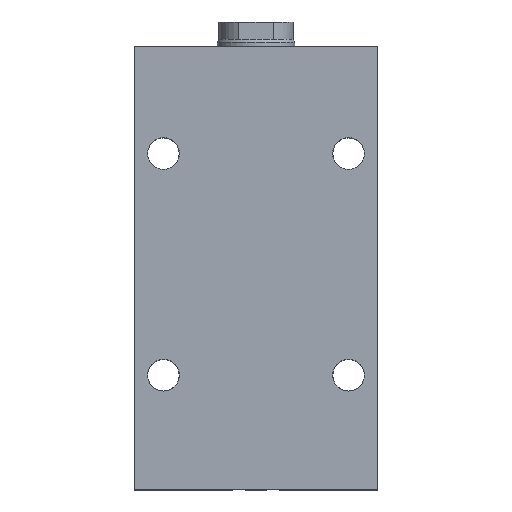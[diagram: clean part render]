
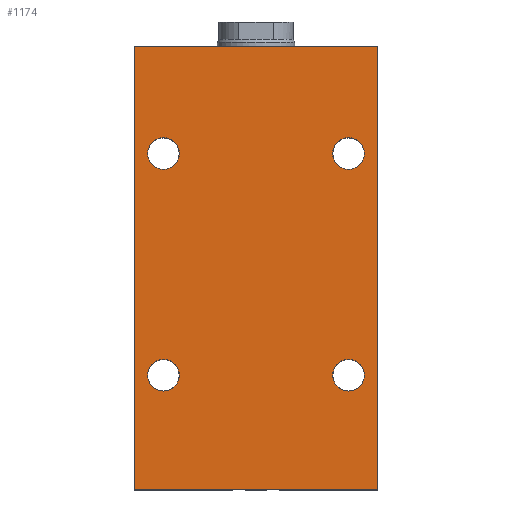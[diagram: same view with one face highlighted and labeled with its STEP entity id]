
A CAD part, top view. The second image highlights one B-rep face of the part: STEP entity #1174.
In plain terms, the highlighted planar face has unit normal (0, 0, 1).
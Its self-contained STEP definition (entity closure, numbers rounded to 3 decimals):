
#7 = AXIS2_PLACEMENT_3D ( 'NONE', #872, #867, #861 ) ;
#14 = EDGE_LOOP ( 'NONE', ( #3750, #1718 ) ) ;
#148 = DIRECTION ( 'NONE',  ( 1., 0., 0. ) ) ;
#156 = VERTEX_POINT ( 'NONE', #1975 ) ;
#168 = CARTESIAN_POINT ( 'NONE',  ( -38., 47., 37.5 ) ) ;
#200 = CARTESIAN_POINT ( 'NONE',  ( -50., 0., 37.5 ) ) ;
#236 = VECTOR ( 'NONE', #3620, 1000. ) ;
#345 = VERTEX_POINT ( 'NONE', #3518 ) ;
#350 = FACE_BOUND ( 'NONE', #1664, .T. ) ;
#376 = VECTOR ( 'NONE', #2246, 1000. ) ;
#465 = CARTESIAN_POINT ( 'NONE',  ( 44.5, 47., 37.5 ) ) ;
#469 = CARTESIAN_POINT ( 'NONE',  ( -38., 138., 37.5 ) ) ;
#476 = FACE_BOUND ( 'NONE', #2636, .T. ) ;
#478 = DIRECTION ( 'NONE',  ( 0., 0., 1. ) ) ;
#496 = AXIS2_PLACEMENT_3D ( 'NONE', #1547, #4199, #1934 ) ;
#566 = CIRCLE ( 'NONE', #3006, 6.5 ) ;
#648 = CARTESIAN_POINT ( 'NONE',  ( 31.5, 138., 37.5 ) ) ;
#692 = VERTEX_POINT ( 'NONE', #648 ) ;
#836 = VECTOR ( 'NONE', #1797, 1000. ) ;
#845 = CIRCLE ( 'NONE', #7, 6.5 ) ;
#851 = CARTESIAN_POINT ( 'NONE',  ( -31.5, 138., 37.5 ) ) ;
#857 = DIRECTION ( 'NONE',  ( 1., 0., 0. ) ) ;
#861 = DIRECTION ( 'NONE',  ( 1., 0., 0. ) ) ;
#867 = DIRECTION ( 'NONE',  ( 0., 0., 1. ) ) ;
#872 = CARTESIAN_POINT ( 'NONE',  ( 38., 138., 37.5 ) ) ;
#895 = AXIS2_PLACEMENT_3D ( 'NONE', #3296, #3312, #3328 ) ;
#950 = DIRECTION ( 'NONE',  ( 1., 0., 0. ) ) ;
#955 = DIRECTION ( 'NONE',  ( 0., 0., 1. ) ) ;
#980 = CARTESIAN_POINT ( 'NONE',  ( 38., 138., 37.5 ) ) ;
#1048 = CARTESIAN_POINT ( 'NONE',  ( -44.5, 138., 37.5 ) ) ;
#1092 = CARTESIAN_POINT ( 'NONE',  ( -50., 182., 37.5 ) ) ;
#1116 = EDGE_CURVE ( 'NONE', #1878, #2320, #4541, .T. ) ;
#1174 = ADVANCED_FACE ( 'NONE', ( #476, #3574, #1401, #350, #4320 ), #3209, .F. ) ;
#1197 = EDGE_CURVE ( 'NONE', #2320, #345, #1276, .T. ) ;
#1276 = LINE ( 'NONE', #200, #236 ) ;
#1369 = CARTESIAN_POINT ( 'NONE',  ( 38., 47., 37.5 ) ) ;
#1382 = AXIS2_PLACEMENT_3D ( 'NONE', #469, #3194, #857 ) ;
#1401 = FACE_BOUND ( 'NONE', #14, .T. ) ;
#1470 = ORIENTED_EDGE ( 'NONE', *, *, #1197, .T. ) ;
#1526 = VERTEX_POINT ( 'NONE', #4546 ) ;
#1547 = CARTESIAN_POINT ( 'NONE',  ( -38., 47., 37.5 ) ) ;
#1594 = ORIENTED_EDGE ( 'NONE', *, *, #2951, .F. ) ;
#1628 = CARTESIAN_POINT ( 'NONE',  ( -50., 0., 37.5 ) ) ;
#1664 = EDGE_LOOP ( 'NONE', ( #3639, #1594 ) ) ;
#1688 = AXIS2_PLACEMENT_3D ( 'NONE', #980, #955, #950 ) ;
#1718 = ORIENTED_EDGE ( 'NONE', *, *, #4478, .F. ) ;
#1754 = CARTESIAN_POINT ( 'NONE',  ( -50., 82., 37.5 ) ) ;
#1757 = CARTESIAN_POINT ( 'NONE',  ( -31.5, 47., 37.5 ) ) ;
#1762 = DIRECTION ( 'NONE',  ( 1., 0., 0. ) ) ;
#1797 = DIRECTION ( 'NONE',  ( 0., -1., 0. ) ) ;
#1805 = LINE ( 'NONE', #3843, #4700 ) ;
#1878 = VERTEX_POINT ( 'NONE', #3840 ) ;
#1916 = CARTESIAN_POINT ( 'NONE',  ( 44.5, 138., 37.5 ) ) ;
#1934 = DIRECTION ( 'NONE',  ( 1., 0., 0. ) ) ;
#1975 = CARTESIAN_POINT ( 'NONE',  ( 31.5, 47., 37.5 ) ) ;
#2024 = VERTEX_POINT ( 'NONE', #1757 ) ;
#2040 = AXIS2_PLACEMENT_3D ( 'NONE', #168, #478, #148 ) ;
#2246 = DIRECTION ( 'NONE',  ( 1., 0., 0. ) ) ;
#2293 = DIRECTION ( 'NONE',  ( 0., -1., 0. ) ) ;
#2320 = VERTEX_POINT ( 'NONE', #1628 ) ;
#2424 = AXIS2_PLACEMENT_3D ( 'NONE', #3145, #3129, #3115 ) ;
#2436 = EDGE_LOOP ( 'NONE', ( #1470, #4381, #4267, #4140 ) ) ;
#2450 = EDGE_CURVE ( 'NONE', #1878, #1526, #4566, .T. ) ;
#2636 = EDGE_LOOP ( 'NONE', ( #3994, #2978 ) ) ;
#2734 = VERTEX_POINT ( 'NONE', #4389 ) ;
#2860 = ORIENTED_EDGE ( 'NONE', *, *, #2963, .F. ) ;
#2908 = VERTEX_POINT ( 'NONE', #851 ) ;
#2951 = EDGE_CURVE ( 'NONE', #2734, #2024, #4217, .T. ) ;
#2963 = EDGE_CURVE ( 'NONE', #4649, #2908, #4003, .T. ) ;
#2978 = ORIENTED_EDGE ( 'NONE', *, *, #3550, .F. ) ;
#3006 = AXIS2_PLACEMENT_3D ( 'NONE', #1369, #4051, #1762 ) ;
#3065 = CIRCLE ( 'NONE', #496, 6.5 ) ;
#3115 = DIRECTION ( 'NONE',  ( 1., 0., 0. ) ) ;
#3129 = DIRECTION ( 'NONE',  ( 0., 0., 1. ) ) ;
#3145 = CARTESIAN_POINT ( 'NONE',  ( 38., 47., 37.5 ) ) ;
#3194 = DIRECTION ( 'NONE',  ( 0., 0., 1. ) ) ;
#3209 = PLANE ( 'NONE',  #895 ) ;
#3296 = CARTESIAN_POINT ( 'NONE',  ( -50., 82., 37.5 ) ) ;
#3312 = DIRECTION ( 'NONE',  ( 0., 0., -1. ) ) ;
#3328 = DIRECTION ( 'NONE',  ( -1., 0., 0. ) ) ;
#3518 = CARTESIAN_POINT ( 'NONE',  ( 50., 0., 37.5 ) ) ;
#3548 = EDGE_CURVE ( 'NONE', #4724, #692, #3948, .T. ) ;
#3550 = EDGE_CURVE ( 'NONE', #692, #4724, #845, .T. ) ;
#3574 = FACE_BOUND ( 'NONE', #4627, .T. ) ;
#3620 = DIRECTION ( 'NONE',  ( 1., 0., 0. ) ) ;
#3639 = ORIENTED_EDGE ( 'NONE', *, *, #4150, .F. ) ;
#3644 = VERTEX_POINT ( 'NONE', #465 ) ;
#3750 = ORIENTED_EDGE ( 'NONE', *, *, #4011, .F. ) ;
#3840 = CARTESIAN_POINT ( 'NONE',  ( -50., 182., 37.5 ) ) ;
#3843 = CARTESIAN_POINT ( 'NONE',  ( 50., 82., 37.5 ) ) ;
#3878 = ORIENTED_EDGE ( 'NONE', *, *, #4922, .F. ) ;
#3948 = CIRCLE ( 'NONE', #1688, 6.5 ) ;
#3994 = ORIENTED_EDGE ( 'NONE', *, *, #3548, .F. ) ;
#4003 = CIRCLE ( 'NONE', #4319, 6.5 ) ;
#4011 = EDGE_CURVE ( 'NONE', #3644, #156, #4403, .T. ) ;
#4051 = DIRECTION ( 'NONE',  ( 0., 0., 1. ) ) ;
#4140 = ORIENTED_EDGE ( 'NONE', *, *, #1116, .T. ) ;
#4150 = EDGE_CURVE ( 'NONE', #2024, #2734, #3065, .T. ) ;
#4157 = EDGE_CURVE ( 'NONE', #1526, #345, #1805, .T. ) ;
#4199 = DIRECTION ( 'NONE',  ( 0., 0., 1. ) ) ;
#4217 = CIRCLE ( 'NONE', #2040, 6.5 ) ;
#4267 = ORIENTED_EDGE ( 'NONE', *, *, #2450, .F. ) ;
#4319 = AXIS2_PLACEMENT_3D ( 'NONE', #4912, #4909, #4896 ) ;
#4320 = FACE_OUTER_BOUND ( 'NONE', #2436, .T. ) ;
#4381 = ORIENTED_EDGE ( 'NONE', *, *, #4157, .F. ) ;
#4389 = CARTESIAN_POINT ( 'NONE',  ( -44.5, 47., 37.5 ) ) ;
#4403 = CIRCLE ( 'NONE', #2424, 6.5 ) ;
#4478 = EDGE_CURVE ( 'NONE', #156, #3644, #566, .T. ) ;
#4541 = LINE ( 'NONE', #1754, #836 ) ;
#4546 = CARTESIAN_POINT ( 'NONE',  ( 50., 182., 37.5 ) ) ;
#4566 = LINE ( 'NONE', #1092, #376 ) ;
#4627 = EDGE_LOOP ( 'NONE', ( #3878, #2860 ) ) ;
#4649 = VERTEX_POINT ( 'NONE', #1048 ) ;
#4700 = VECTOR ( 'NONE', #2293, 1000. ) ;
#4724 = VERTEX_POINT ( 'NONE', #1916 ) ;
#4752 = CIRCLE ( 'NONE', #1382, 6.5 ) ;
#4896 = DIRECTION ( 'NONE',  ( 1., 0., 0. ) ) ;
#4909 = DIRECTION ( 'NONE',  ( 0., 0., 1. ) ) ;
#4912 = CARTESIAN_POINT ( 'NONE',  ( -38., 138., 37.5 ) ) ;
#4922 = EDGE_CURVE ( 'NONE', #2908, #4649, #4752, .T. ) ;
